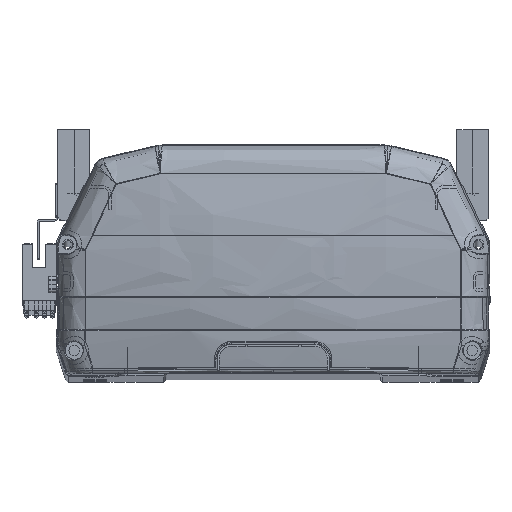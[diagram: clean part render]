
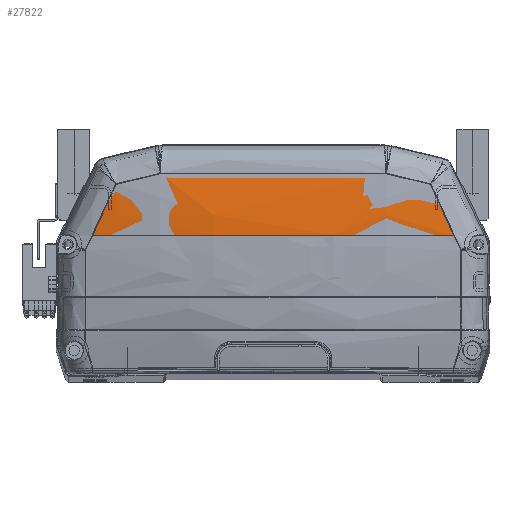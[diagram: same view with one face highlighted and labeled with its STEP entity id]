
A CAD part, top view. The second image highlights one B-rep face of the part: STEP entity #27822.
In plain terms, the highlighted toroidal (fillet/blend) face has major radius 312.5 mm and minor radius 572.4 mm.
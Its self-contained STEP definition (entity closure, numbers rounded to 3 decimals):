
#188 = VERTEX_POINT ( 'NONE', #13793 ) ;
#456 = AXIS2_PLACEMENT_3D ( 'NONE', #42036, #13280, #3411 ) ;
#1688 = CARTESIAN_POINT ( 'NONE',  ( 29.579, 79.389, -1.814 ) ) ;
#3091 = CARTESIAN_POINT ( 'NONE',  ( -67.917, 61.816, -4.208 ) ) ;
#3411 = DIRECTION ( 'NONE',  ( 0., 0., -1. ) ) ;
#4599 = ORIENTED_EDGE ( 'NONE', *, *, #33758, .F. ) ;
#4701 = CARTESIAN_POINT ( 'NONE',  ( -44.331, 79.443, -2.97 ) ) ;
#4710 = CARTESIAN_POINT ( 'NONE',  ( 71.027, 55.096, -4.524 ) ) ;
#5550 = ORIENTED_EDGE ( 'NONE', *, *, #29601, .F. ) ;
#6715 = B_SPLINE_CURVE_WITH_KNOTS ( 'NONE', 3,
 ( #40919, #21397, #8454, #40777, #1688, #34627 ),
 .UNSPECIFIED., .F., .F.,
 ( 4, 2, 4 ),
 ( 0., 0.044, 0.089 ),
 .UNSPECIFIED. ) ;
#6993 = B_SPLINE_CURVE_WITH_KNOTS ( 'NONE', 3,
 ( #26407, #14034, #32961, #17275 ),
 .UNSPECIFIED., .F., .F.,
 ( 4, 4 ),
 ( 0., 0.018 ),
 .UNSPECIFIED. ) ;
#8148 = ORIENTED_EDGE ( 'NONE', *, *, #40576, .F. ) ;
#8454 = CARTESIAN_POINT ( 'NONE',  ( -14.788, 79.361, -1.235 ) ) ;
#9002 = CARTESIAN_POINT ( 'NONE',  ( 0., 55.096, -572.5 ) ) ;
#9051 = VERTEX_POINT ( 'NONE', #22165 ) ;
#9453 = VERTEX_POINT ( 'NONE', #39406 ) ;
#9792 = CARTESIAN_POINT ( 'NONE',  ( -64.813, 68.545, -4.11 ) ) ;
#11171 = VERTEX_POINT ( 'NONE', #15830 ) ;
#12261 = DIRECTION ( 'NONE',  ( 0., 1., 0. ) ) ;
#13280 = DIRECTION ( 'NONE',  ( 1., 0., 0. ) ) ;
#13793 = CARTESIAN_POINT ( 'NONE',  ( -61.718, 75.278, -4.232 ) ) ;
#14021 = EDGE_LOOP ( 'NONE', ( #5550, #15225, #8148, #4599, #34088, #28172 ) ) ;
#14034 = CARTESIAN_POINT ( 'NONE',  ( 50.132, 78.049, -3.29 ) ) ;
#15225 = ORIENTED_EDGE ( 'NONE', *, *, #18608, .T. ) ;
#15830 = CARTESIAN_POINT ( 'NONE',  ( 71.027, 55.096, -4.524 ) ) ;
#16112 = FACE_OUTER_BOUND ( 'NONE', #14021, .T. ) ;
#17275 = CARTESIAN_POINT ( 'NONE',  ( 61.718, 75.278, -4.232 ) ) ;
#17663 = CARTESIAN_POINT ( 'NONE',  ( 67.917, 61.809, -4.135 ) ) ;
#18608 = EDGE_CURVE ( 'NONE', #37933, #11171, #39782, .T. ) ;
#18774 = B_SPLINE_CURVE_WITH_KNOTS ( 'NONE', 3,
 ( #35421, #35567, #3091, #9792, #38994, #25872 ),
 .UNSPECIFIED., .F., .F.,
 ( 4, 2, 4 ),
 ( 0.006, 0.017, 0.029 ),
 .UNSPECIFIED. ) ;
#21067 = CARTESIAN_POINT ( 'NONE',  ( -55.929, 76.661, -3.711 ) ) ;
#21397 = CARTESIAN_POINT ( 'NONE',  ( -29.579, 79.39, -1.814 ) ) ;
#22165 = CARTESIAN_POINT ( 'NONE',  ( 44.331, 79.443, -2.97 ) ) ;
#23651 = B_SPLINE_CURVE_WITH_KNOTS ( 'NONE', 3,
 ( #28637, #37170, #17663, #4710 ),
 .UNSPECIFIED., .F., .F.,
 ( 4, 4 ),
 ( 0., 0.022 ),
 .UNSPECIFIED. ) ;
#24246 = VERTEX_POINT ( 'NONE', #35573 ) ;
#25271 = EDGE_CURVE ( 'NONE', #188, #24246, #29491, .T. ) ;
#25872 = CARTESIAN_POINT ( 'NONE',  ( -61.718, 75.278, -4.232 ) ) ;
#26407 = CARTESIAN_POINT ( 'NONE',  ( 44.331, 79.443, -2.97 ) ) ;
#27822 = ADVANCED_FACE ( 'NONE', ( #16112 ), #30362, .T. ) ;
#27831 = CARTESIAN_POINT ( 'NONE',  ( -71.027, 55.096, -4.524 ) ) ;
#28172 = ORIENTED_EDGE ( 'NONE', *, *, #25271, .F. ) ;
#28637 = CARTESIAN_POINT ( 'NONE',  ( 61.718, 75.278, -4.232 ) ) ;
#28784 = DIRECTION ( 'NONE',  ( 0., 0., 1. ) ) ;
#29491 = B_SPLINE_CURVE_WITH_KNOTS ( 'NONE', 3,
 ( #40304, #21067, #33600, #4701 ),
 .UNSPECIFIED., .F., .F.,
 ( 4, 4 ),
 ( 0., 0.018 ),
 .UNSPECIFIED. ) ;
#29601 = EDGE_CURVE ( 'NONE', #37933, #188, #18774, .T. ) ;
#30362 = TOROIDAL_SURFACE ( 'NONE', #456, -312.5, 572.4 ) ;
#32961 = CARTESIAN_POINT ( 'NONE',  ( 55.929, 76.66, -3.711 ) ) ;
#33600 = CARTESIAN_POINT ( 'NONE',  ( -50.132, 78.049, -3.29 ) ) ;
#33758 = EDGE_CURVE ( 'NONE', #9051, #9453, #6993, .T. ) ;
#34088 = ORIENTED_EDGE ( 'NONE', *, *, #41068, .F. ) ;
#34627 = CARTESIAN_POINT ( 'NONE',  ( 44.331, 79.443, -2.97 ) ) ;
#35421 = CARTESIAN_POINT ( 'NONE',  ( -71.027, 55.096, -4.524 ) ) ;
#35567 = CARTESIAN_POINT ( 'NONE',  ( -69.472, 58.454, -4.329 ) ) ;
#35573 = CARTESIAN_POINT ( 'NONE',  ( -44.331, 79.443, -2.97 ) ) ;
#37170 = CARTESIAN_POINT ( 'NONE',  ( 64.811, 68.545, -4.037 ) ) ;
#37933 = VERTEX_POINT ( 'NONE', #27831 ) ;
#38994 = CARTESIAN_POINT ( 'NONE',  ( -63.264, 71.911, -4.135 ) ) ;
#39406 = CARTESIAN_POINT ( 'NONE',  ( 61.718, 75.278, -4.232 ) ) ;
#39782 = CIRCLE ( 'NONE', #40383, 572.4 ) ;
#40304 = CARTESIAN_POINT ( 'NONE',  ( -61.718, 75.278, -4.232 ) ) ;
#40383 = AXIS2_PLACEMENT_3D ( 'NONE', #9002, #12261, #28784 ) ;
#40576 = EDGE_CURVE ( 'NONE', #9453, #11171, #23651, .T. ) ;
#40777 = CARTESIAN_POINT ( 'NONE',  ( 14.805, 79.361, -1.235 ) ) ;
#40919 = CARTESIAN_POINT ( 'NONE',  ( -44.331, 79.443, -2.97 ) ) ;
#41068 = EDGE_CURVE ( 'NONE', #24246, #9051, #6715, .T. ) ;
#42036 = CARTESIAN_POINT ( 'NONE',  ( 0., 55.096, -260. ) ) ;
